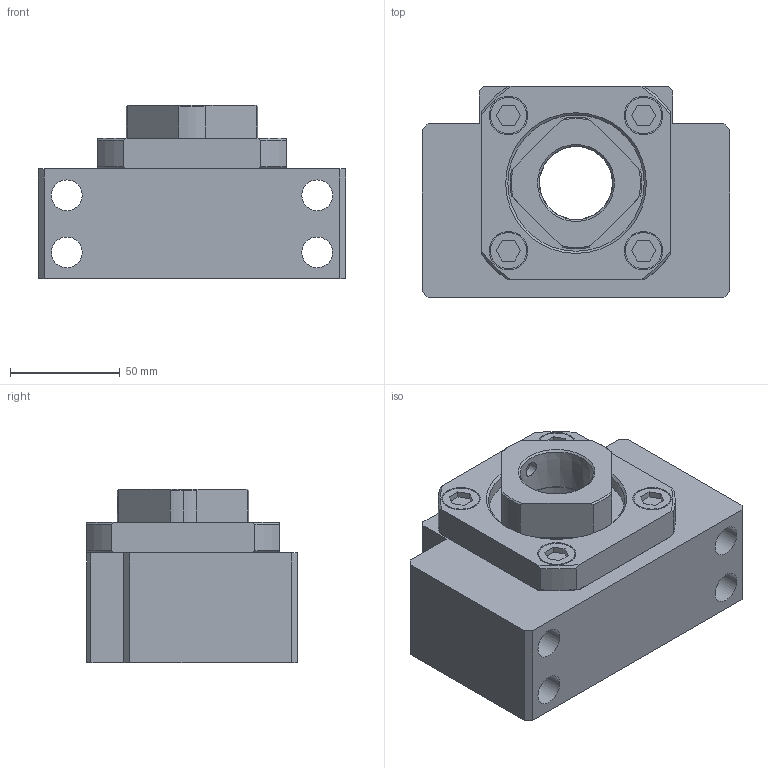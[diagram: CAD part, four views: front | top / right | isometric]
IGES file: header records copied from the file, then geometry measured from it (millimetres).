
Start section: Data from Parasolid IGES Translator 26.0.171, Copyright(c) 2006 Siemens PLM Software. All Rights Reserved.
Global section: file name: BK35Yes.igs; native system: By Siemens PLM Incorporated; preprocessor: XPlus GENERIC/IGES 26.0.171; author: Noname; organization: Noname; date: 20250611.070710; units: millimetre
Bounding box: 140 x 96 x 79 mm (x, y, z)
Surface area: 112725.3 mm2 (no closed solid volume)
Topology: 0 solids, 0 shells, 156 faces, 728 edges, 688 vertices
Faces by surface type: extrusion 94, revolution 62
